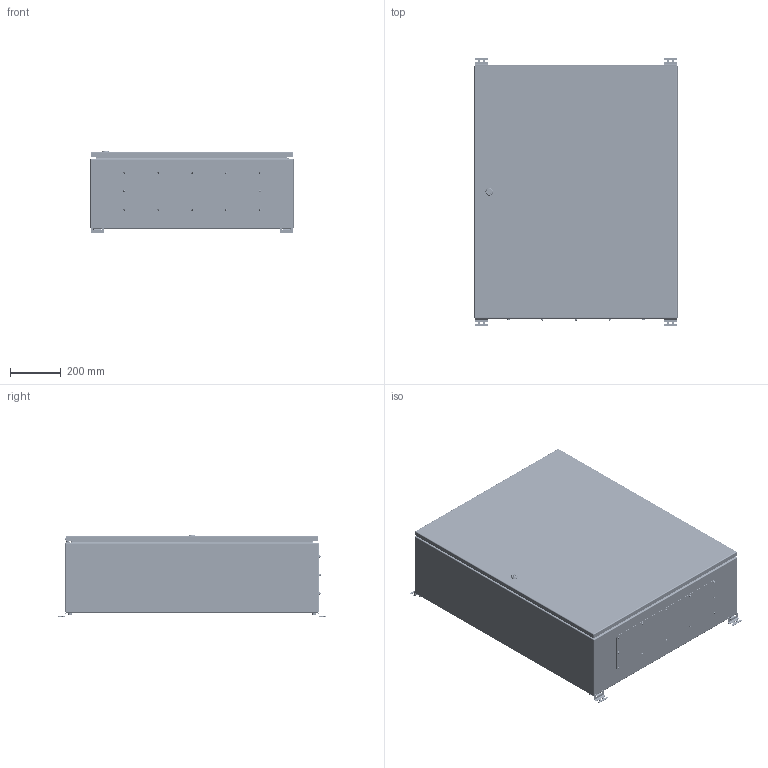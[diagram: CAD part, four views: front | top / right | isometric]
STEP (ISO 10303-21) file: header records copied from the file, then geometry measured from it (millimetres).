
FILE_DESCRIPTION(('STEP AP242'), '1');
FILE_NAME('400 ﾙﾌﾏ-1 (IP-56)', '', ('UNSPECIFIED'), ('UNSPECIFIED'), 'C3D Converter', 'C3D Toolkit', '');
FILE_SCHEMA(('AP242_MANAGED_MODEL_BASED_3D_ENGINEERING_MIM_LF { 1 0 10303 442 1 1 4 }'));
Length unit declared in the file: millimetre
Products named in the file (58): ЩМП-1-ЛФ СБ; 410-ЛФ; 420; 421; 411-Ф; 430-Л; 431-Л; 490; 491; 401; 440-Ф; 441-Ф; 402; 403; 450; 451; ЦИУЛ.210677.00.03-03; 452
Assembly tree (175 placements, depth 4):
  ЩМП-1-ЛФ СБ
    410-ЛФ
      420
        421
        (unnamed)  x6
        (unnamed)
      411-Ф
      430-Л
        431-Л
        (unnamed)  x12
    490  x2
      491
      (unnamed)
      (unnamed)
      (unnamed)
      (unnamed)
      (unnamed)
    490  x2
      491
      (unnamed)
      (unnamed)
      (unnamed)
      (unnamed)
      (unnamed)
    401
    (unnamed)  x6
    (unnamed)  x6
    (unnamed)  x6
    (unnamed)  x3
      (unnamed)
      (unnamed)
      (unnamed)
    (unnamed)  x18
    440-Ф
      441-Ф
      (unnamed)
      (unnamed)  x6
      (unnamed)  x2
      (unnamed)  x3
    402  x2
    (unnamed)  x6
    (unnamed)  x6
    (unnamed)  x2
    (unnamed)
      (unnamed)
      (unnamed)
      (unnamed)
      (unnamed)
      (unnamed)
    (unnamed)
    (unnamed)  x2
      (unnamed)
      (unnamed)
      (unnamed)
    (unnamed)  x2
    (unnamed)  x2
    403
    (unnamed)  x12
    (unnamed)  x12
    450
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Bounding box: 800 x 1056 x 323.1 mm (x, y, z)
Volume: 6389517.3 mm3; surface area: 7651626.8 mm2
Topology: 186 solids, 188 shells, 3423 faces, 7926 edges, 5001 vertices
Faces by surface type: plane 1911, cylinder 970, cone 338, torus 79, bspline 70, sphere 55
Full cylindrical faces by diameter (mm): 0.5 x6, 2.6 x4, 3.3 x1, 3.5 x136, 4 x5, 4.134 x17, 4.2 x7, 4.85 x2, 4.917 x6, 5 x30, 5.3 x2, 5.5 x27, 5.75 x3, 5.8 x1, 6 x37, 6.38 x12, 6.4 x18, 6.5 x4, 6.647 x10, 7 x9, 7.3 x6, 7.4 x1, 7.5 x9, 7.74 x12, 7.9 x4, 8 x21, 8.3 x2, 8.4 x10, 8.5 x35, 8.7 x12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
Entity records: 88173 total; most frequent: CARTESIAN_POINT 44205, DIRECTION 7218, ORIENTED_EDGE 6676, EDGE_CURVE 3338, AXIS2_PLACEMENT_3D 2781, VERTEX_POINT 2272, EDGE_LOOP 2158, LINE 1656
